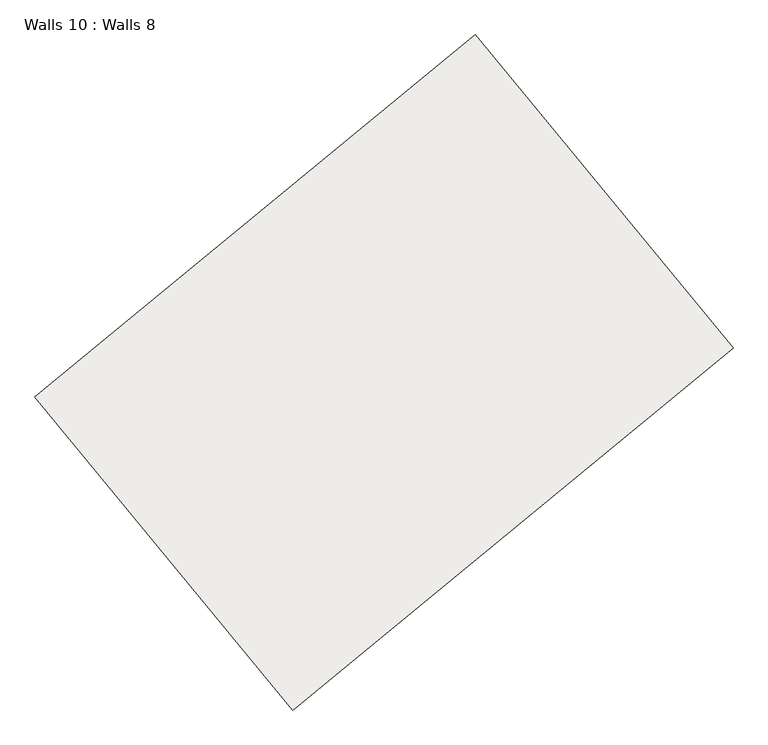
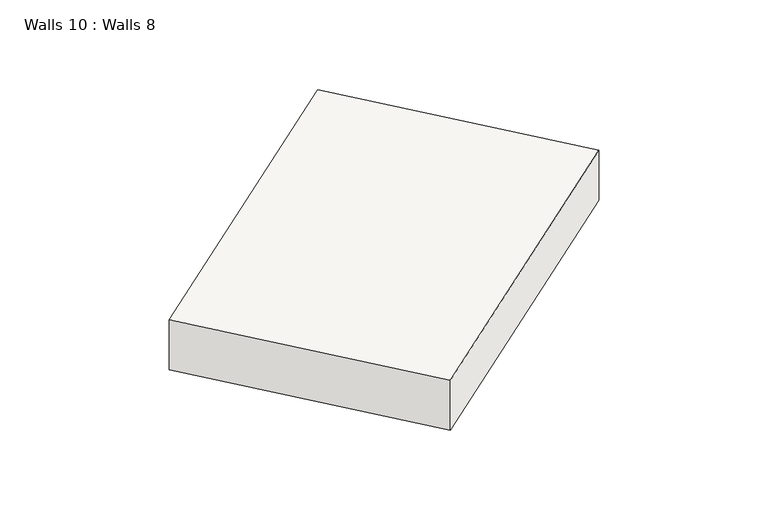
"""IFC4 building model written with IfcOpenShell, lengths in millimetres: slab geometry, Walls 10 : Walls 8."""

from ifc_helpers import new_model, si_unit, frame, origin, place, context, project, spatial, polyline, outline, extrude, source, transform, mapped, element, save


def walls_10_walls_8_5578e67d(model_context):
    return source(origin(), model_context, "Body", "SweptSolid", [
        extrude(outline(polyline([(-325.0, 0.0), (325.0, 0.0), (285.0, -4500.0000001), (-365.0, -4500.0000001), (-325.0, 0.0)])), frame((-277526.7794568, -435512.4551483, 634585.0), z_axis=(-0.6353361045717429, 0.7722357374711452, 0.0), x_axis=(0.0, 0.0, 1.0)), (0.0, 0.0, 1.0), 3200.0),
    ])


if __name__ == "__main__":
    model = new_model("IFC4")
    model_context = context("Model", 3, world=origin())
    ifc_project = project(units=[si_unit("LENGTHUNIT", "METRE", prefix="MILLI")], contexts=[model_context])
    site = spatial("IfcSite", under=ifc_project)
    building = spatial("IfcBuilding", under=site)
    placement = place(None, origin())
    walls_10_walls_8_shape = walls_10_walls_8_5578e67d(model_context)
    element("IfcSlab", 1, ObjectType="Walls 10 : Walls 8", at=placement, inside=building, context=model_context, shape_type="MappedRepresentation", body=[
        mapped(walls_10_walls_8_shape, transform((0.0, 0.0, 0.0), x_axis=(1.0, 0.0, 0.0), y_axis=(0.0, 1.0, 0.0), z_axis=(0.0, 0.0, 1.0))),
    ])
    save(model, "model.ifc")
